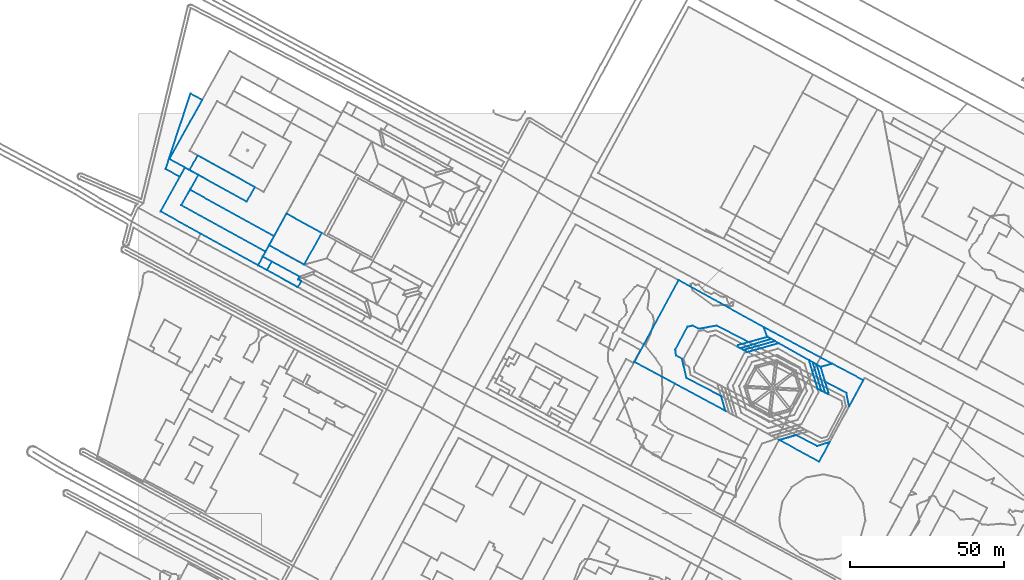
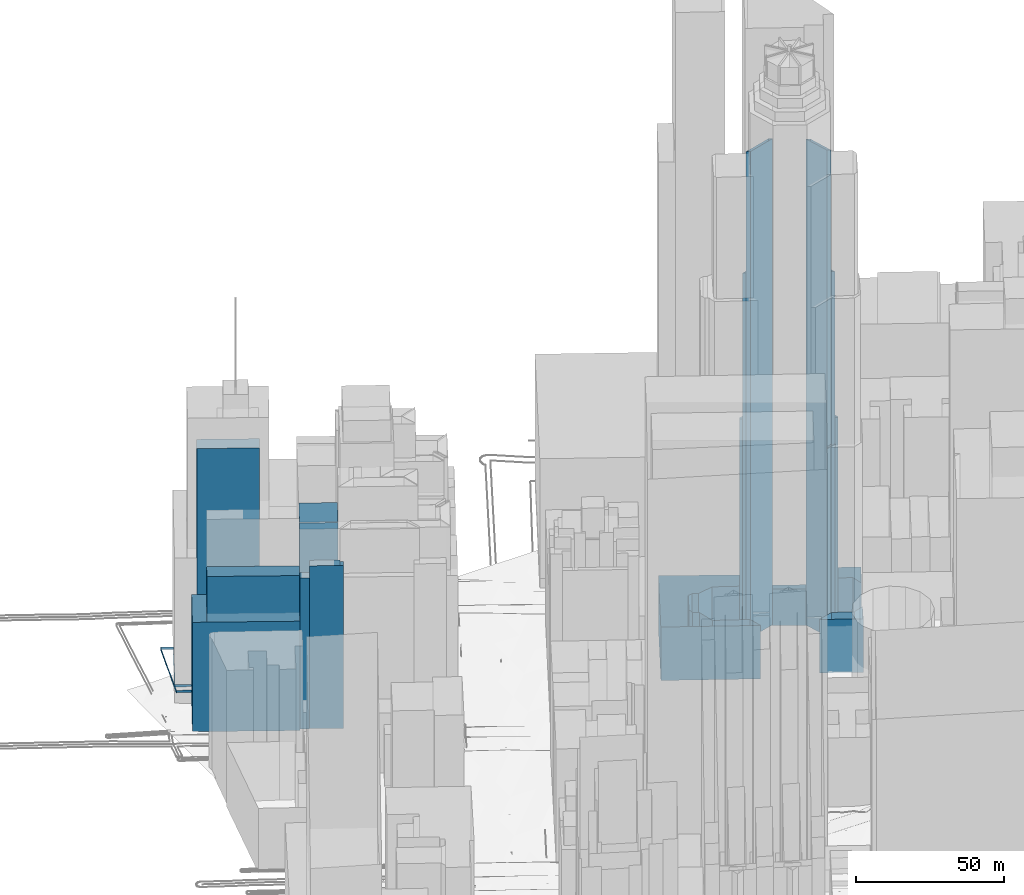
# Not in any storey, part 28 of 80: 17 walls.
"""IFC4 building model written with IfcOpenShell, lengths in metres."""

import ifcopenshell
import ifcopenshell.guid

model = None  # the IFC model being written
_history = None  # IfcOwnerHistory: only IFC2X3 demands one
_inside = {}  # id of a spatial element -> (the spatial element, [elements in it])
_under = {}  # id of a project, library or spatial element -> (it, [spatial elements below it])
_declared = {}  # id of a project -> (the project, [libraries it declares])
_typed = {}  # id of a type object -> (the type object, [elements of that type])
_made_of = {}  # id of a material, layer set ... -> (it, [elements and type objects made of it])


def new_model(schema):
    """Start an empty IFC model of exactly this schema.

    Asked for "IFC4X3", IfcOpenShell would pick the latest addendum, in which some entities
    have other attributes; the version numbers below select the first issue.
    IFC2X3 requires an IfcOwnerHistory on every rooted entity: one is made here for all.
    """
    global model, _history
    if schema == "IFC4X3":
        model = ifcopenshell.file(schema_version=(4, 3, 0, 0))
    else:
        model = ifcopenshell.file(schema=schema)
    _inside.clear()
    _under.clear()
    _declared.clear()
    _typed.clear()
    _made_of.clear()
    _history = None
    if model.schema == "IFC2X3":
        org = make("IfcOrganization", Name="unknown")
        user = make(
            "IfcPersonAndOrganization",
            ThePerson=make("IfcPerson", FamilyName="unknown"),
            TheOrganization=org,
        )
        app = make(
            "IfcApplication",
            ApplicationDeveloper=org,
            Version="unknown",
            ApplicationFullName="unknown",
            ApplicationIdentifier="unknown",
        )
        _history = make(
            "IfcOwnerHistory",
            OwningUser=user,
            OwningApplication=app,
            ChangeAction="ADDED",
            CreationDate=0,
        )
    return model


def make(cls, **values):
    """One entity of the class cls with the attributes given. An attribute that is None is left unset."""
    return model.create_entity(
        cls, **{name: value for name, value in values.items() if value is not None}
    )


def rooted(cls, **values):
    """An entity with a GlobalId (a new one), such as an element, a storey or a relation."""
    return make(cls, GlobalId=ifcopenshell.guid.new(), OwnerHistory=_history, **values)


def si_unit(unit_type, name, prefix=None):
    """IfcSIUnit, for example si_unit("LENGTHUNIT", "METRE", prefix="MILLI")."""
    return make("IfcSIUnit", UnitType=unit_type, Prefix=prefix, Name=name)


def assignment(units):
    """IfcUnitAssignment: the units of a project."""
    return None if units is None else make("IfcUnitAssignment", Units=units)


def point(xyz):
    """IfcCartesianPoint."""
    return None if xyz is None else make("IfcCartesianPoint", Coordinates=xyz)


def direction(xyz):
    """IfcDirection."""
    return None if xyz is None else make("IfcDirection", DirectionRatios=xyz)


def frame(location, z_axis=None, x_axis=None):
    """IfcAxis2Placement3D, a coordinate frame: its origin and axes. An axis left out is left unset."""
    return make(
        "IfcAxis2Placement3D",
        Location=point(location),
        Axis=direction(z_axis),
        RefDirection=direction(x_axis),
    )


def origin_with_axes():
    """The frame at (0, 0, 0) with the z axis (0, 0, 1) and the x axis (1, 0, 0) written out."""
    return frame((0.0, 0.0, 0.0), z_axis=(0.0, 0.0, 1.0), x_axis=(1.0, 0.0, 0.0))


def place(relative_to, where):
    """IfcLocalPlacement: puts the frame where relative to a parent placement (None: the world)."""
    return make(
        "IfcLocalPlacement", PlacementRelTo=relative_to, RelativePlacement=where
    )


def context(
    kind, dimensions, precision=None, world=None, true_north=None, identifier=None
):
    """IfcGeometricRepresentationContext, for example the 3D "Model" context."""
    return make(
        "IfcGeometricRepresentationContext",
        ContextIdentifier=identifier,
        ContextType=kind,
        CoordinateSpaceDimension=dimensions,
        Precision=precision,
        WorldCoordinateSystem=world,
        TrueNorth=true_north,
    )


def subcontext(parent, identifier, kind, view, scale=None):
    """IfcGeometricRepresentationSubContext, for example "Body" below "Model"."""
    return make(
        "IfcGeometricRepresentationSubContext",
        ContextIdentifier=identifier,
        ContextType=kind,
        ParentContext=parent,
        TargetScale=scale,
        TargetView=view,
    )


def project(units=None, contexts=None):
    """IfcProject with its units and contexts."""
    return rooted(
        "IfcProject",
        Name="project",
        RepresentationContexts=contexts,
        UnitsInContext=assignment(units),
    )


def spatial(cls, under=None, at=None, **own):
    """A site, building, storey or space (cls), placed at a placement, below another one or the project."""
    s = rooted(cls, ObjectPlacement=at, **own)
    if under is not None:
        _under.setdefault(under.id(), (under, []))[1].append(s)
    return s


def point_list(points):
    """IfcCartesianPointList2D or 3D."""
    cls = (
        "IfcCartesianPointList2D" if len(points[0]) == 2 else "IfcCartesianPointList3D"
    )
    return make(cls, CoordList=points)


def polygons(points, faces, closed=None, point_numbers=None):
    """IfcPolygonalFaceSet: a face is its outer loop, then its inner loops; points numbered from 1."""
    made = []
    for loops in faces:
        if len(loops) == 1:
            made.append(make("IfcIndexedPolygonalFace", CoordIndex=loops[0]))
        else:
            made.append(
                make(
                    "IfcIndexedPolygonalFaceWithVoids",
                    CoordIndex=loops[0],
                    InnerCoordIndices=loops[1:],
                )
            )
    return make(
        "IfcPolygonalFaceSet",
        Coordinates=point_list(points),
        Closed=closed,
        Faces=made,
        PnIndex=point_numbers,
    )


def shape(context_of_items, identifier, shape_type, items):
    """IfcShapeRepresentation: the items that make up one representation, for example the "Body"."""
    return make(
        "IfcShapeRepresentation",
        ContextOfItems=context_of_items,
        RepresentationIdentifier=identifier,
        RepresentationType=shape_type,
        Items=items,
    )


def made_of(thing, what):
    """Note that an element or type object is made of a material, layer set ...; save() writes the relation."""
    if what is not None:
        _made_of.setdefault(what.id(), (what, []))[1].append(thing)
    return thing


def element(
    cls,
    number,
    at=None,
    inside=None,
    cuts=None,
    type_object=None,
    material=None,
    context=None,
    identifier="Body",
    shape_type=None,
    held_by="IfcProductDefinitionShape",
    body=None,
    shapes=None,
    **own,
):
    """One element of the class cls, such as IfcWall. Its Tag is "e" and its number.

    at: its placement. inside: the storey or other place that contains it. cuts: it is an
    opening in that element (IfcRelVoidsElement). A single representation is given by context,
    identifier, shape_type and body (its items); several are given by shapes. held_by: the class
    of the entity that holds the representations. save() writes the other relations.
    """
    e = rooted(cls, Tag="e%d" % number, ObjectPlacement=at, **own)
    if body is not None:
        shapes = [shape(context, identifier, shape_type, body)]
    if shapes is not None:
        e.Representation = make(held_by, Representations=shapes)
    if inside is not None:
        _inside.setdefault(inside.id(), (inside, []))[1].append(e)
    if cuts is not None:
        rooted(
            "IfcRelVoidsElement", RelatingBuildingElement=cuts, RelatedOpeningElement=e
        )
    if type_object is not None:
        _typed.setdefault(type_object.id(), (type_object, []))[1].append(e)
    return made_of(e, material)


def aggregate(whole, parts):
    """IfcRelAggregates: a whole, such as a stair, and the parts it consists of."""
    return rooted("IfcRelAggregates", RelatingObject=whole, RelatedObjects=parts)


def save(model, path):
    """Write the relations noted so far, then the file.

    IfcRelAggregates (storeys below a building ...), IfcRelContainedInSpatialStructure (elements
    in a storey), IfcRelDefinesByType, IfcRelAssociatesMaterial and IfcRelDeclares: one each for
    every whole, place, type object, material and project.
    """
    for whole, parts in _under.values():
        aggregate(whole, parts)
    for where, things in _inside.values():
        rooted(
            "IfcRelContainedInSpatialStructure",
            RelatedElements=things,
            RelatingStructure=where,
        )
    for kind, things in _typed.values():
        rooted("IfcRelDefinesByType", RelatedObjects=things, RelatingType=kind)
    for what, things in _made_of.values():
        rooted("IfcRelAssociatesMaterial", RelatedObjects=things, RelatingMaterial=what)
    for by, libraries in _declared.values():
        rooted("IfcRelDeclares", RelatingContext=by, RelatedDefinitions=libraries)
    model.write(path)


model = new_model("IFC4")

# Units and contexts
model_context = context("Model", 3, precision=1e-05, world=origin_with_axes())
body_context = subcontext(model_context, "Body", "Model", "MODEL_VIEW")
ifc_project = project(units=[si_unit("AREAUNIT", "SQUARE_METRE"), si_unit("LENGTHUNIT", "METRE")], contexts=[model_context])

# Sites, building
site_1_placement = place(None, origin_with_axes())
site_1 = spatial("IfcSite", under=ifc_project, at=site_1_placement, Name="Topoexport Site")
site_2_placement = place(site_1_placement, origin_with_axes())
site_2 = spatial("IfcSite", under=site_1, at=site_2_placement, Name="TPX_BATIMENTS")
building_1_placement = place(site_2_placement, frame((161.19127827, 298.8014028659, 19.4608547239), z_axis=(0.0, 0.0, 1.0), x_axis=(1.0, 0.0, 0.0)))
building_1 = spatial("IfcBuilding", under=site_2, at=building_1_placement, Name="Batiment 98", CompositionType="ELEMENT")

# Wall
wall_1_placement = place(None, frame((161.19127827, 298.8014028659, 19.4608547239), z_axis=(0.0, 0.0, 1.0), x_axis=(1.0, 0.0, 0.0)))
element("IfcWall", 1, at=wall_1_placement, inside=building_1, Name="Mur 0", context=body_context, shape_type="Tessellation", body=[
    polygons([(0.0, 0.0, 0.0), (29.637602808, -15.9646779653, 0.0), (28.2733478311, -11.1621604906, 0.0), (16.9696826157, -5.2983587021, 0.0), (15.5294506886, 0.9576732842, 0.0), (13.5836021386, 2.0563807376, 0.0), (13.3239184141, 4.0628703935, 0.0), (17.2729201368, 11.4584719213, 0.0), (18.9830601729, 11.7559095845, 0.0), (20.8772332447, 10.7454208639, 0.0), (26.7655958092, 11.7908792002, 0.0), (37.1350091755, 6.4158307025, 0.0), (43.2518253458, 8.1411963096, 0.0), (42.0671637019, 11.2915635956, 0.0), (14.3795340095, 26.5350073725, 0.0), (0.0, 0.0, 22.0), (29.637602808, -15.9646779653, 22.0), (28.2733478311, -11.1621604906, 22.0), (16.9696826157, -5.2983587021, 22.0), (15.5294506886, 0.9576732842, 22.0), (13.5836021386, 2.0563807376, 22.0), (13.3239184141, 4.0628703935, 22.0), (17.2729201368, 11.4584719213, 22.0), (18.9830601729, 11.7559095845, 22.0), (20.8772332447, 10.7454208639, 22.0), (26.7655958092, 11.7908792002, 22.0), (37.1350091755, 6.4158307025, 22.0), (43.2518253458, 8.1411963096, 22.0), (42.0671637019, 11.2915635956, 22.0), (14.3795340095, 26.5350073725, 22.0)], [[[17, 16, 2]], [[2, 16, 1]], [[18, 17, 3]], [[3, 17, 2]], [[19, 18, 4]], [[4, 18, 3]], [[20, 19, 5]], [[5, 19, 4]], [[21, 20, 6]], [[6, 20, 5]], [[22, 21, 7]], [[7, 21, 6]], [[23, 22, 8]], [[8, 22, 7]], [[24, 23, 9]], [[9, 23, 8]], [[25, 24, 10]], [[10, 24, 9]], [[26, 25, 11]], [[11, 25, 10]], [[27, 26, 12]], [[12, 26, 11]], [[28, 27, 13]], [[13, 27, 12]], [[29, 28, 14]], [[14, 28, 13]], [[16, 30, 1]], [[1, 30, 15]], [[30, 29, 15]], [[15, 29, 14]]]),
])

# Building
building_2_placement = place(site_2_placement, frame((203.2584419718, 310.0929664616, 21.9404542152), z_axis=(0.0, 0.0, 1.0), x_axis=(1.0, 0.0, 0.0)))
building_2 = spatial("IfcBuilding", under=site_2, at=building_2_placement, Name="Batiment 99", CompositionType="ELEMENT")

# Wall
wall_2_placement = place(None, frame((203.2584419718, 310.0929664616, 21.9404542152), z_axis=(0.0, 0.0, 1.0), x_axis=(1.0, 0.0, 0.0)))
element("IfcWall", 2, at=wall_2_placement, inside=building_2, Name="Mur 0", context=body_context, shape_type="Tessellation", body=[
    polygons([(0.0, 0.0, 0.0), (1.1846616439, -3.1503672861, 0.0), (18.5101123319, -12.9075972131, 0.0), (22.221026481, -11.8985374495, 0.0), (0.0, 0.0, 15.0), (1.1846616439, -3.1503672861, 15.0), (18.5101123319, -12.9075972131, 15.0), (22.221026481, -11.8985374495, 15.0)], [[[6, 5, 2]], [[2, 5, 1]], [[7, 6, 3]], [[3, 6, 2]], [[5, 8, 1]], [[1, 8, 4]], [[8, 7, 4]], [[4, 7, 3]]]),
])

# Building
building_3_placement = place(site_2_placement, frame((219.2364479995, 298.6103141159, 22.0370250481), z_axis=(0.0, 0.0, 1.0), x_axis=(1.0, 0.0, 0.0)))
building_3 = spatial("IfcBuilding", under=site_2, at=building_3_placement, Name="Batiment 100", CompositionType="ELEMENT")

# Wall
wall_3_placement = place(None, frame((219.2364479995, 298.6103141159, 22.0370250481), z_axis=(0.0, 0.0, 1.0), x_axis=(1.0, 0.0, 0.0)))
element("IfcWall", 3, at=wall_3_placement, inside=building_3, Name="Mur 0", context=body_context, shape_type="Tessellation", body=[
    polygons([(0.0, 0.0, 0.0), (2.8171290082, -9.2376195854, 0.0), (4.0061240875, -9.8566187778, 0.0), (1.2661175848, -0.7180229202, 0.0), (0.0, 0.0, 150.0), (2.8171290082, -9.2376195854, 150.0), (4.0061240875, -9.8566187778, 150.0), (1.2661175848, -0.7180229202, 150.0)], [[[6, 5, 2]], [[2, 5, 1]], [[7, 6, 3]], [[3, 6, 2]], [[5, 8, 1]], [[1, 8, 4]], [[8, 7, 4]], [[4, 7, 3]]]),
])

# Building
building_4_placement = place(site_2_placement, frame((220.5025655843, 297.8922911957, 22.020281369), z_axis=(0.0, 0.0, 1.0), x_axis=(1.0, 0.0, 0.0)))
building_4 = spatial("IfcBuilding", under=site_2, at=building_4_placement, Name="Batiment 101", CompositionType="ELEMENT")

# Wall
wall_4_placement = place(None, frame((220.5025655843, 297.8922911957, 22.020281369), z_axis=(0.0, 0.0, 1.0), x_axis=(1.0, 0.0, 0.0)))
element("IfcWall", 4, at=wall_4_placement, inside=building_4, Name="Mur 0", context=body_context, shape_type="Tessellation", body=[
    polygons([(0.0, 0.0, 0.0), (2.7400065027, -9.1385958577, 0.0), (3.6317852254, -9.6056203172, 0.0), (3.8550238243, -9.20334242, 0.0), (1.2659887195, -0.7069219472, 0.0), (0.0, 0.0, 90.0), (2.7400065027, -9.1385958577, 90.0), (3.6317852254, -9.6056203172, 90.0), (3.8550238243, -9.20334242, 90.0), (1.2659887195, -0.7069219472, 90.0)], [[[7, 6, 2]], [[2, 6, 1]], [[8, 7, 3]], [[3, 7, 2]], [[9, 8, 4]], [[4, 8, 3]], [[6, 10, 1]], [[1, 10, 5]], [[10, 9, 5]], [[5, 9, 4]]]),
])

# Building
building_5_placement = place(site_2_placement, frame((221.7685543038, 297.1853692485, 21.8040198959), z_axis=(0.0, 0.0, 1.0), x_axis=(1.0, 0.0, 0.0)))
building_5 = spatial("IfcBuilding", under=site_2, at=building_5_placement, Name="Batiment 102", CompositionType="ELEMENT")

# Wall
wall_5_placement = place(None, frame((221.7685543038, 297.1853692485, 21.8040198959), z_axis=(0.0, 0.0, 1.0), x_axis=(1.0, 0.0, 0.0)))
element("IfcWall", 5, at=wall_5_placement, inside=building_5, Name="Mur 0", context=body_context, shape_type="Tessellation", body=[
    polygons([(0.0, 0.0, 0.0), (1.4921694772, -4.9120468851, 0.0), (8.354244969, -8.4737691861, 0.0), (9.2151276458, -12.8158404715, 0.0), (13.843917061, -4.3575852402, 0.0), (3.7109141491, 1.0090597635, 0.0), (0.0, 0.0, 22.0), (1.4921694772, -4.9120468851, 22.0), (8.354244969, -8.4737691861, 22.0), (9.2151276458, -12.8158404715, 22.0), (13.843917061, -4.3575852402, 22.0), (3.7109141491, 1.0090597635, 22.0)], [[[8, 7, 2]], [[2, 7, 1]], [[9, 8, 3]], [[3, 8, 2]], [[10, 9, 4]], [[4, 9, 3]], [[11, 10, 5]], [[5, 10, 4]], [[7, 12, 1]], [[1, 12, 6]], [[12, 11, 6]], [[6, 11, 5]]]),
])

# Building
building_6_placement = place(site_2_placement, frame((208.2008787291, 273.4352760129, 21.5056877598), z_axis=(0.0, 0.0, 1.0), x_axis=(1.0, 0.0, 0.0)))
building_6 = spatial("IfcBuilding", under=site_2, at=building_6_placement, Name="Batiment 103", CompositionType="ELEMENT")

# Wall
wall_6_placement = place(None, frame((208.2008787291, 273.4352760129, 21.5056877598), z_axis=(0.0, 0.0, 1.0), x_axis=(1.0, 0.0, 0.0)))
element("IfcWall", 6, at=wall_6_placement, inside=building_6, Name="Mur 0", context=body_context, shape_type="Tessellation", body=[
    polygons([(0.0, 0.0, 0.0), (13.0821989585, -7.0865241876, 0.0), (16.451848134, -0.6857371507, 0.0), (12.4573086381, -1.9867536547, 0.0), (5.6462511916, 1.5422641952, 0.0), (0.0, 0.0, 22.0), (13.0821989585, -7.0865241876, 22.0), (16.451848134, -0.6857371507, 22.0), (12.4573086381, -1.9867536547, 22.0), (5.6462511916, 1.5422641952, 22.0)], [[[7, 6, 2]], [[2, 6, 1]], [[8, 7, 3]], [[3, 7, 2]], [[9, 8, 4]], [[4, 8, 3]], [[6, 10, 1]], [[1, 10, 5]], [[10, 9, 5]], [[5, 9, 4]]]),
])

# Building
building_7_placement = place(site_2_placement, frame((217.9703306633, 299.3283372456, 22.0589444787), z_axis=(0.0, 0.0, 1.0), x_axis=(1.0, 0.0, 0.0)))
building_7 = spatial("IfcBuilding", under=site_2, at=building_7_placement, Name="Batiment 107", CompositionType="ELEMENT")

# Wall
wall_7_placement = place(None, frame((217.9703306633, 299.3283372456, 22.0589444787), z_axis=(0.0, 0.0, 1.0), x_axis=(1.0, 0.0, 0.0)))
element("IfcWall", 7, at=wall_7_placement, inside=building_7, Name="Mur 0", context=body_context, shape_type="Tessellation", body=[
    polygons([(0.0, 0.0, 0.0), (2.8432226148, -9.3039300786, 0.0), (4.0832463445, -9.9556427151, 0.0), (1.2661173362, -0.7180231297, 0.0), (0.0, 0.0, 200.0), (2.8432226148, -9.3039300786, 200.0), (4.0832463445, -9.9556427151, 200.0), (1.2661173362, -0.7180231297, 200.0)], [[[6, 5, 2]], [[2, 5, 1]], [[7, 6, 3]], [[3, 6, 2]], [[5, 8, 1]], [[1, 8, 4]], [[8, 7, 4]], [[4, 7, 3]]]),
])

# Building
building_8_placement = place(site_2_placement, frame((41.7800097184, 328.5784664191, 23.4010795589), z_axis=(0.0, 0.0, 1.0), x_axis=(1.0, 0.0, 0.0)))
building_8 = spatial("IfcBuilding", under=site_2, at=building_8_placement, Name="Batiment 152", CompositionType="ELEMENT")

# Wall
wall_8_placement = place(None, frame((41.7800097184, 328.5784664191, 23.4010795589), z_axis=(0.0, 0.0, 1.0), x_axis=(1.0, 0.0, 0.0)))
element("IfcWall", 8, at=wall_8_placement, inside=building_8, Name="Mur 0", context=body_context, shape_type="Tessellation", body=[
    polygons([(0.0, 0.0, 0.0), (10.0500953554, -5.5121834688, 0.0), (11.1329543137, -3.534514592, 0.0), (10.1390067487, -2.9909401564, 0.0), (10.6265412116, -2.085998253, 0.0), (1.5539020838, 2.8491104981, 0.0), (0.0, 0.0, 67.0), (10.0500953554, -5.5121834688, 67.0), (11.1329543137, -3.534514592, 67.0), (10.1390067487, -2.9909401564, 67.0), (10.6265412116, -2.085998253, 67.0), (1.5539020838, 2.8491104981, 67.0)], [[[8, 7, 2]], [[2, 7, 1]], [[9, 8, 3]], [[3, 8, 2]], [[10, 9, 4]], [[4, 9, 3]], [[11, 10, 5]], [[5, 10, 4]], [[7, 12, 1]], [[1, 12, 6]], [[12, 11, 6]], [[6, 11, 5]]]),
])

# Building
building_9_placement = place(site_2_placement, frame((194.6888328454, 303.6983377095, 22.4164949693), z_axis=(0.0, 0.0, 1.0), x_axis=(1.0, 0.0, 0.0)))
building_9 = spatial("IfcBuilding", under=site_2, at=building_9_placement, Name="Batiment 261", CompositionType="ELEMENT")

# Wall
wall_9_placement = place(None, frame((194.6888328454, 303.6983377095, 22.4164949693), z_axis=(0.0, 0.0, 1.0), x_axis=(1.0, 0.0, 0.0)))
element("IfcWall", 9, at=wall_9_placement, inside=building_9, Name="Mur 0", context=body_context, shape_type="Tessellation", body=[
    polygons([(0.0, 0.0, 0.0), (0.8833348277, -0.4671259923, 0.0), (10.9779261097, 2.547946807, 0.0), (9.7542707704, 3.244261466, 0.0), (0.3055768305, 0.5808705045, 0.0), (0.0, 0.0, 90.0), (0.8833348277, -0.4671259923, 90.0), (10.9779261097, 2.547946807, 90.0), (9.7542707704, 3.244261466, 90.0), (0.3055768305, 0.5808705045, 90.0)], [[[7, 6, 2]], [[2, 6, 1]], [[8, 7, 3]], [[3, 7, 2]], [[9, 8, 4]], [[4, 8, 3]], [[6, 10, 1]], [[1, 10, 5]], [[10, 9, 5]], [[5, 9, 4]]]),
])

# Building
building_10_placement = place(site_2_placement, frame((195.5721676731, 303.2312117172, 22.3534216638), z_axis=(0.0, 0.0, 1.0), x_axis=(1.0, 0.0, 0.0)))
building_10 = spatial("IfcBuilding", under=site_2, at=building_10_placement, Name="Batiment 262", CompositionType="ELEMENT")

# Wall
wall_10_placement = place(None, frame((195.5721676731, 303.2312117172, 22.3534216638), z_axis=(0.0, 0.0, 1.0), x_axis=(1.0, 0.0, 0.0)))
element("IfcWall", 10, at=wall_10_placement, inside=building_10, Name="Mur 0", context=body_context, shape_type="Tessellation", body=[
    polygons([(0.0, 0.0, 0.0), (1.0701818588, -0.5648735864, 0.0), (11.3265579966, 2.3299572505, 0.0), (10.094591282, 3.0150727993, 0.0), (0.0, 0.0, 150.0), (1.0701818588, -0.5648735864, 150.0), (11.3265579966, 2.3299572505, 150.0), (10.094591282, 3.0150727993, 150.0)], [[[6, 5, 2]], [[2, 5, 1]], [[7, 6, 3]], [[3, 6, 2]], [[5, 8, 1]], [[1, 8, 4]], [[8, 7, 4]], [[4, 7, 3]]]),
])

# Building
building_11_placement = place(site_2_placement, frame((196.642349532, 302.6663381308, 22.285008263), z_axis=(0.0, 0.0, 1.0), x_axis=(1.0, 0.0, 0.0)))
building_11 = spatial("IfcBuilding", under=site_2, at=building_11_placement, Name="Batiment 263", CompositionType="ELEMENT")

# Wall
wall_11_placement = place(None, frame((196.642349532, 302.6663381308, 22.285008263), z_axis=(0.0, 0.0, 1.0), x_axis=(1.0, 0.0, 0.0)))
element("IfcWall", 11, at=wall_11_placement, inside=building_11, Name="Mur 0", context=body_context, shape_type="Tessellation", body=[
    polygons([(0.0, 0.0, 0.0), (1.290919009, -0.6733292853, 0.0), (11.4462710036, 2.1981239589, 0.0), (10.2563761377, 2.8948308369, 0.0), (0.0, 0.0, 200.0), (1.290919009, -0.6733292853, 200.0), (11.4462710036, 2.1981239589, 200.0), (10.2563761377, 2.8948308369, 200.0)], [[[6, 5, 2]], [[2, 5, 1]], [[7, 6, 3]], [[3, 6, 2]], [[5, 8, 1]], [[1, 8, 4]], [[8, 7, 4]], [[4, 7, 3]]]),
])

# Building
building_12_placement = place(site_2_placement, frame((42.4543960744, 336.6576310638, 22.8602980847), z_axis=(0.0, 0.0, 1.0), x_axis=(1.0, 0.0, 0.0)))
building_12 = spatial("IfcBuilding", under=site_2, at=building_12_placement, Name="Batiment 298", CompositionType="ELEMENT")

# Wall
wall_12_placement = place(None, frame((42.4543960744, 336.6576310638, 22.8602980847), z_axis=(0.0, 0.0, 1.0), x_axis=(1.0, 0.0, 0.0)))
element("IfcWall", 12, at=wall_12_placement, inside=building_12, Name="Mur 0", context=body_context, shape_type="Tessellation", body=[
    polygons([(0.0, 0.0, 0.0), (11.4264184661, -6.2733628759, 0.0), (17.1228970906, 4.0290444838, 0.0), (5.6710397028, 10.3132053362, 0.0), (0.0, 0.0, 80.0), (11.4264184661, -6.2733628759, 80.0), (17.1228970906, 4.0290444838, 80.0), (5.6710397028, 10.3132053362, 80.0)], [[[6, 5, 2]], [[2, 5, 1]], [[7, 6, 3]], [[3, 6, 2]], [[5, 8, 1]], [[1, 8, 4]], [[8, 7, 4]], [[4, 7, 3]]]),
])

# Building
building_13_placement = place(site_2_placement, frame((7.1766328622, 347.6946620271, 22.6847044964), z_axis=(0.0, 0.0, 1.0), x_axis=(1.0, 0.0, 0.0)))
building_13 = spatial("IfcBuilding", under=site_2, at=building_13_placement, Name="Batiment 303", CompositionType="ELEMENT")

# Wall
wall_13_placement = place(None, frame((7.1766328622, 347.6946620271, 22.6847044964), z_axis=(0.0, 0.0, 1.0), x_axis=(1.0, 0.0, 0.0)))
element("IfcWall", 13, at=wall_13_placement, inside=building_13, Name="Mur 0", context=body_context, shape_type="Tessellation", body=[
    polygons([(0.0, 0.0, 0.0), (31.7064559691, -17.5288908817, 0.0), (34.1368527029, -13.1041901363, 0.0), (6.7972554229, 2.0106592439, 0.0), (12.2796097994, 11.8553581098, 0.0), (7.9382167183, 14.2585789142, 0.0), (0.0, 0.0, 45.0), (31.7064559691, -17.5288908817, 45.0), (34.1368527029, -13.1041901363, 45.0), (6.7972554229, 2.0106592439, 45.0), (12.2796097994, 11.8553581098, 45.0), (7.9382167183, 14.2585789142, 45.0)], [[[8, 7, 2]], [[2, 7, 1]], [[9, 8, 3]], [[3, 8, 2]], [[10, 9, 4]], [[4, 9, 3]], [[11, 10, 5]], [[5, 10, 4]], [[7, 12, 1]], [[1, 12, 6]], [[12, 11, 6]], [[6, 11, 5]]]),
])

# Building
building_14_placement = place(site_2_placement, frame((16.6101084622, 361.1268202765, 22.7114009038), z_axis=(0.0, 0.0, 1.0), x_axis=(1.0, 0.0, 0.0)))
building_14 = spatial("IfcBuilding", under=site_2, at=building_14_placement, Name="Batiment 304", CompositionType="ELEMENT")

# Wall
wall_14_placement = place(None, frame((16.6101084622, 361.1268202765, 22.7114009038), z_axis=(0.0, 0.0, 1.0), x_axis=(1.0, 0.0, 0.0)))
element("IfcWall", 14, at=wall_14_placement, inside=building_14, Name="Mur 0", context=body_context, shape_type="Tessellation", body=[
    polygons([(0.0, 0.0, 0.0), (18.5802692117, -10.2649021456, 0.0), (21.23480915, -5.5156355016, 0.0), (2.6544189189, 4.7603606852, 0.0), (0.0, 0.0, 105.0), (18.5802692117, -10.2649021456, 105.0), (21.23480915, -5.5156355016, 105.0), (2.6544189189, 4.7603606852, 105.0)], [[[6, 5, 2]], [[2, 5, 1]], [[7, 6, 3]], [[3, 6, 2]], [[5, 8, 1]], [[1, 8, 4]], [[8, 7, 4]], [[4, 7, 3]]]),
])

# Building
building_15_placement = place(site_2_placement, frame((13.9738882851, 349.705321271, 22.9265770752), z_axis=(0.0, 0.0, 1.0), x_axis=(1.0, 0.0, 0.0)))
building_15 = spatial("IfcBuilding", under=site_2, at=building_15_placement, Name="Batiment 305", CompositionType="ELEMENT")

# Wall
wall_15_placement = place(None, frame((13.9738882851, 349.705321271, 22.9265770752), z_axis=(0.0, 0.0, 1.0), x_axis=(1.0, 0.0, 0.0)))
element("IfcWall", 15, at=wall_15_placement, inside=building_15, Name="Mur 0", context=body_context, shape_type="Tessellation", body=[
    polygons([(0.0, 0.0, 0.0), (27.33959728, -15.1148493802, 0.0), (30.1006408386, -10.0867881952, 0.0), (2.7949453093, 5.0173419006, 0.0), (0.0, 0.0, 60.0), (27.33959728, -15.1148493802, 60.0), (30.1006408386, -10.0867881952, 60.0), (2.7949453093, 5.0173419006, 60.0)], [[[6, 5, 2]], [[2, 5, 1]], [[7, 6, 3]], [[3, 6, 2]], [[5, 8, 1]], [[1, 8, 4]], [[8, 7, 4]], [[4, 7, 3]]]),
])

# Building
building_16_placement = place(site_2_placement, frame((8.8487001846, 361.4586486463, 29.7839697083), z_axis=(0.0, 0.0, 1.0), x_axis=(1.0, 0.0, 0.0)))
building_16 = spatial("IfcBuilding", under=site_2, at=building_16_placement, Name="Batiment 312", CompositionType="ELEMENT")

# Wall
wall_16_placement = place(None, frame((8.8487001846, 361.4586486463, 29.7839697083), z_axis=(0.0, 0.0, 1.0), x_axis=(1.0, 0.0, 0.0)))
element("IfcWall", 16, at=wall_16_placement, inside=building_16, Name="Mur 0", context=body_context, shape_type="Tessellation", body=[
    polygons([(0.0, 0.0, 0.0), (4.5875730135, -2.5224926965, 0.0), (6.2661493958, 0.494592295, 0.0), (1.2195887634, 3.2893146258, 0.0), (11.8949184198, 22.4535480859, 0.0), (8.0632962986, 24.5740246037, 0.0), (0.0, 0.0, 1.0), (4.5875730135, -2.5224926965, 1.0), (6.2661493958, 0.494592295, 1.0), (1.2195887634, 3.2893146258, 1.0), (11.8949184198, 22.4535480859, 1.0), (8.0632962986, 24.5740246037, 1.0)], [[[8, 7, 2]], [[2, 7, 1]], [[9, 8, 3]], [[3, 8, 2]], [[10, 9, 4]], [[4, 9, 3]], [[11, 10, 5]], [[5, 10, 4]], [[7, 12, 1]], [[1, 12, 6]], [[12, 11, 6]], [[6, 11, 5]]]),
])

# Building
building_17_placement = place(site_2_placement, frame((38.8830888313, 330.1657711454, 23.374337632), z_axis=(0.0, 0.0, 1.0), x_axis=(1.0, 0.0, 0.0)))
building_17 = spatial("IfcBuilding", under=site_2, at=building_17_placement, Name="Batiment 332", CompositionType="ELEMENT")

# Wall
wall_17_placement = place(None, frame((38.8830888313, 330.1657711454, 23.374337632), z_axis=(0.0, 0.0, 1.0), x_axis=(1.0, 0.0, 0.0)))
element("IfcWall", 17, at=wall_17_placement, inside=building_17, Name="Mur 0", context=body_context, shape_type="Tessellation", body=[
    polygons([(0.0, 0.0, 0.0), (2.8969208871, -1.5873047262, 0.0), (4.4508229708, 1.2618057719, 0.0), (1.5541605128, 2.8269083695, 0.0), (0.0, 0.0, 62.0), (2.8969208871, -1.5873047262, 62.0), (4.4508229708, 1.2618057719, 62.0), (1.5541605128, 2.8269083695, 62.0)], [[[6, 5, 2]], [[2, 5, 1]], [[7, 6, 3]], [[3, 6, 2]], [[5, 8, 1]], [[1, 8, 4]], [[8, 7, 4]], [[4, 7, 3]]]),
])

save(model, "model.ifc")
